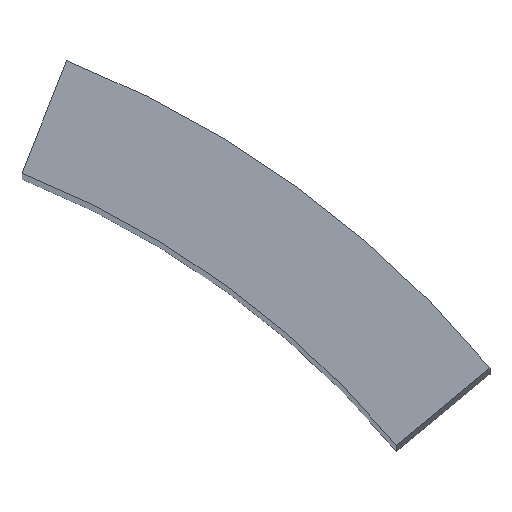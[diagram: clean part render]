
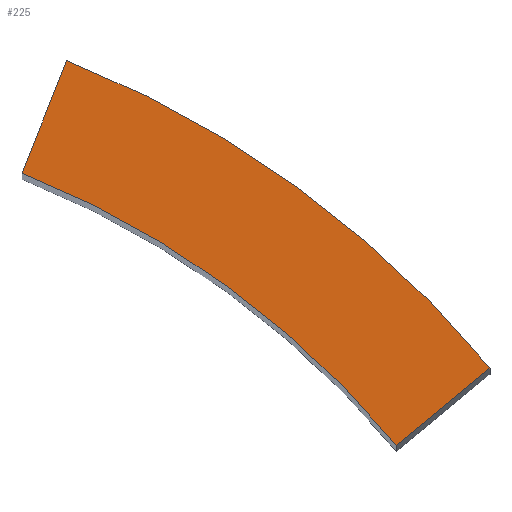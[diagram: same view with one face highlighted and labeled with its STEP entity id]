
A CAD part, top view. The second image highlights one B-rep face of the part: STEP entity #225.
In plain terms, the highlighted planar face has unit normal (0, 0, 1).
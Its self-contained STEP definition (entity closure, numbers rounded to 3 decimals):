
#24 = VERTEX_POINT('',#25);
#25 = CARTESIAN_POINT('',(17.722,14.661,100.));
#31 = EDGE_CURVE('',#24,#32,#34,.T.);
#32 = VERTEX_POINT('',#33);
#33 = CARTESIAN_POINT('',(20.033,16.573,100.));
#34 = LINE('',#35,#36);
#35 = CARTESIAN_POINT('',(17.722,14.661,100.));
#36 = VECTOR('',#37,1.);
#37 = DIRECTION('',(0.771,0.637,0.));
#62 = EDGE_CURVE('',#32,#63,#65,.T.);
#63 = VERTEX_POINT('',#64);
#64 = CARTESIAN_POINT('',(15.282,21.034,100.));
#65 = CIRCLE('',#66,26.);
#66 = AXIS2_PLACEMENT_3D('',#67,#68,#69);
#67 = CARTESIAN_POINT('',(0.,0.,100.)
  );
#68 = DIRECTION('',(0.,0.,1.));
#69 = DIRECTION('',(0.771,0.637,-0.));
#95 = EDGE_CURVE('',#63,#96,#98,.T.);
#96 = VERTEX_POINT('',#97);
#97 = CARTESIAN_POINT('',(9.571,24.174,100.));
#98 = CIRCLE('',#99,26.);
#99 = AXIS2_PLACEMENT_3D('',#100,#101,#102);
#100 = CARTESIAN_POINT('',(0.,0.,100.)
  );
#101 = DIRECTION('',(0.,0.,1.));
#102 = DIRECTION('',(0.588,0.809,-0.));
#128 = EDGE_CURVE('',#96,#129,#131,.T.);
#129 = VERTEX_POINT('',#130);
#130 = CARTESIAN_POINT('',(8.467,21.385,100.));
#131 = LINE('',#132,#133);
#132 = CARTESIAN_POINT('',(9.571,24.174,100.));
#133 = VECTOR('',#134,1.);
#134 = DIRECTION('',(-0.368,-0.93,0.));
#159 = EDGE_CURVE('',#129,#160,#162,.T.);
#160 = VERTEX_POINT('',#161);
#161 = CARTESIAN_POINT('',(13.519,18.607,100.));
#162 = CIRCLE('',#163,23.);
#163 = AXIS2_PLACEMENT_3D('',#164,#165,#166);
#164 = CARTESIAN_POINT('',(0.,0.,100.)
  );
#165 = DIRECTION('',(0.,0.,-1.));
#166 = DIRECTION('',(0.368,0.93,0.));
#192 = EDGE_CURVE('',#160,#24,#193,.T.);
#193 = CIRCLE('',#194,23.);
#194 = AXIS2_PLACEMENT_3D('',#195,#196,#197);
#195 = CARTESIAN_POINT('',(0.,0.,100.)
  );
#196 = DIRECTION('',(0.,0.,-1.));
#197 = DIRECTION('',(0.588,0.809,0.));
#225 = ADVANCED_FACE('',(#226),#234,.T.);
#226 = FACE_BOUND('',#227,.T.);
#227 = EDGE_LOOP('',(#228,#229,#230,#231,#232,#233));
#228 = ORIENTED_EDGE('',*,*,#31,.T.);
#229 = ORIENTED_EDGE('',*,*,#62,.T.);
#230 = ORIENTED_EDGE('',*,*,#95,.T.);
#231 = ORIENTED_EDGE('',*,*,#128,.T.);
#232 = ORIENTED_EDGE('',*,*,#159,.T.);
#233 = ORIENTED_EDGE('',*,*,#192,.T.);
#234 = PLANE('',#235);
#235 = AXIS2_PLACEMENT_3D('',#236,#237,#238);
#236 = CARTESIAN_POINT('',(14.227,19.582,100.));
#237 = DIRECTION('',(0.,0.,1.));
#238 = DIRECTION('',(1.,0.,-0.));
